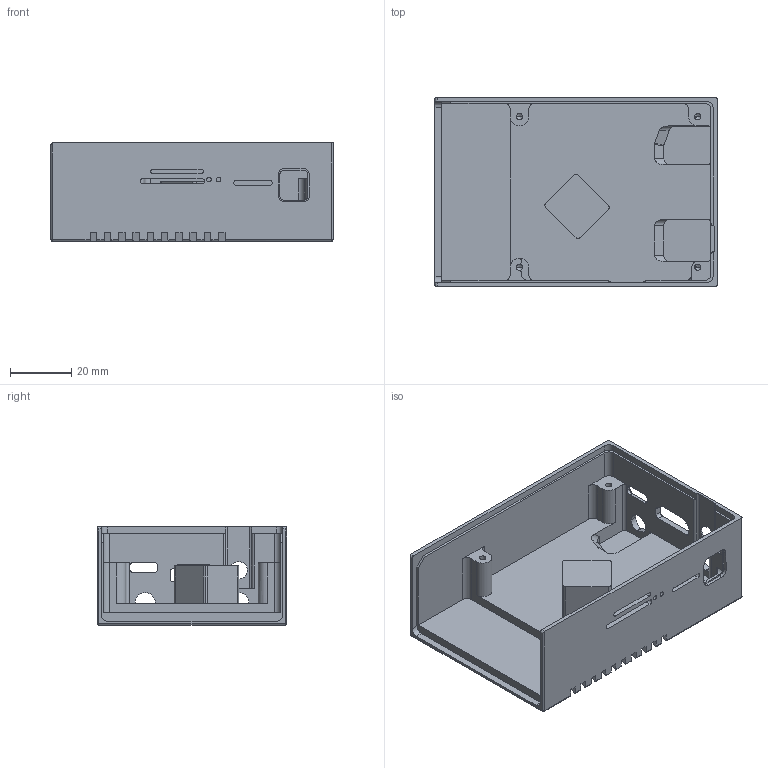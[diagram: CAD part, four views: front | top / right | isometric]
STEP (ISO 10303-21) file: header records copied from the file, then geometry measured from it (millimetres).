
FILE_DESCRIPTION (( 'STEP AP214' ), '1' );
FILE_NAME ('LubanCat 1 验证槽孔位置 3D打样20230606.STEP', '2023-06-06T06:18:11', ( '' ), ( '' ), 'SwSTEP 2.0', 'SolidWorks 2021', '' );
FILE_SCHEMA (( 'AUTOMOTIVE_DESIGN' ));
Length unit declared in the file: millimetre
Products named in the file (1): LubanCat 1 验证槽孔位置 3D打样20230606
Bounding box: 91.8 x 61.6 x 32 mm (x, y, z)
Volume: 44837.2 mm3; surface area: 30715.9 mm2
Topology: 1 solids, 1 shells, 280 faces, 808 edges, 521 vertices
Faces by surface type: cylinder 135, plane 129, cone 12, sphere 4
Entity records: 9290 total; most frequent: CARTESIAN_POINT 1799, ORIENTED_EDGE 1592, DIRECTION 1523, EDGE_CURVE 796, VERTEX_POINT 521, LINE 517, VECTOR 517, AXIS2_PLACEMENT_3D 503
